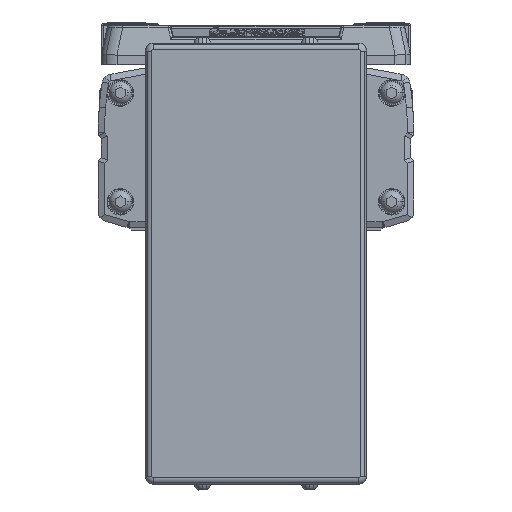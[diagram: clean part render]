
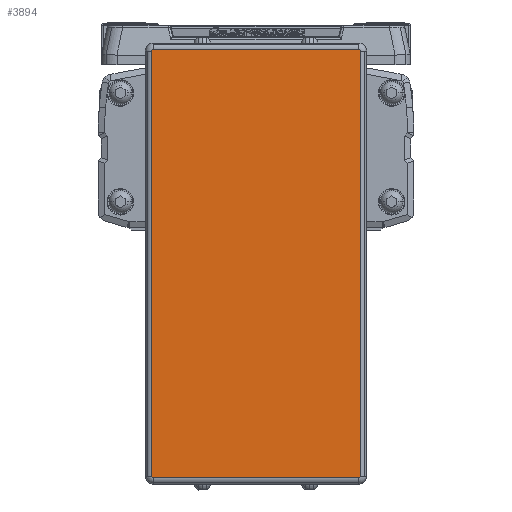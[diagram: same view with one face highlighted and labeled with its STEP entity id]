
A CAD part, left-side view. The second image highlights one B-rep face of the part: STEP entity #3894.
In plain terms, the highlighted planar face has unit normal (-1, 0, 0).
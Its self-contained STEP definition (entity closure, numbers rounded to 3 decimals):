
#3894=ADVANCED_FACE('',(#8872),#8873,.F.);
#8872=FACE_OUTER_BOUND('',#15362,.T.);
#8873=PLANE('',#15363);
#15362=EDGE_LOOP('',(#26341,#26342,#26343,#26344,#26345,#26346,#26347,#26348));
#15363=AXIS2_PLACEMENT_3D('',#26349,#26350,#26351);
#26341=ORIENTED_EDGE('',*,*,#40487,.T.);
#26342=ORIENTED_EDGE('',*,*,#41334,.T.);
#26343=ORIENTED_EDGE('',*,*,#40332,.T.);
#26344=ORIENTED_EDGE('',*,*,#41341,.T.);
#26345=ORIENTED_EDGE('',*,*,#41342,.T.);
#26346=ORIENTED_EDGE('',*,*,#38200,.T.);
#26347=ORIENTED_EDGE('',*,*,#39663,.T.);
#26348=ORIENTED_EDGE('',*,*,#40032,.T.);
#26349=CARTESIAN_POINT('',(-616.0,0.,-41.6));
#26350=DIRECTION('',(1.0,0.,0.));
#26351=DIRECTION('',(0.,0.,1.0));
#38200=EDGE_CURVE('',#45841,#45839,#45842,.T.);
#39663=EDGE_CURVE('',#45839,#48321,#48323,.T.);
#40032=EDGE_CURVE('',#48321,#48905,#48907,.T.);
#40332=EDGE_CURVE('',#49386,#49384,#49387,.T.);
#40487=EDGE_CURVE('',#48905,#49619,#49621,.T.);
#41334=EDGE_CURVE('',#49619,#49386,#50917,.T.);
#41341=EDGE_CURVE('',#49384,#50925,#50926,.T.);
#41342=EDGE_CURVE('',#50925,#45841,#50927,.T.);
#45839=VERTEX_POINT('',#56643);
#45841=VERTEX_POINT('',#56645);
#45842=CIRCLE('',#56646,0.5);
#48321=VERTEX_POINT('',#59897);
#48323=LINE('',#59899,#59900);
#48905=VERTEX_POINT('',#60707);
#48907=CIRCLE('',#60709,0.5);
#49384=VERTEX_POINT('',#61328);
#49386=VERTEX_POINT('',#61330);
#49387=LINE('',#61331,#61332);
#49619=VERTEX_POINT('',#61639);
#49621=LINE('',#61641,#61642);
#50917=CIRCLE('',#63490,0.5);
#50925=VERTEX_POINT('',#63499);
#50926=CIRCLE('',#63500,0.5);
#50927=LINE('',#63501,#63502);
#56643=CARTESIAN_POINT('',(-616.0,32.55,-109.5));
#56645=CARTESIAN_POINT('',(-616.0,33.05,-109.));
#56646=AXIS2_PLACEMENT_3D('',#70093,#70094,#70095);
#59897=CARTESIAN_POINT('',(-616.0,-32.55,-109.5));
#59899=CARTESIAN_POINT('',(-616.0,0.,-109.5));
#59900=VECTOR('',#72192,10.0);
#60707=CARTESIAN_POINT('',(-616.0,-33.05,-109.));
#60709=AXIS2_PLACEMENT_3D('',#72693,#72694,#72695);
#61328=CARTESIAN_POINT('',(-616.,32.55,26.3));
#61330=CARTESIAN_POINT('',(-616.,-32.55,26.3));
#61331=CARTESIAN_POINT('',(-616.,0.,26.3));
#61332=VECTOR('',#73138,10.0);
#61639=CARTESIAN_POINT('',(-616.,-33.05,25.8));
#61641=CARTESIAN_POINT('',(-616.,-33.05,-41.6));
#61642=VECTOR('',#73345,10.0);
#63490=AXIS2_PLACEMENT_3D('',#74391,#74392,#74393);
#63499=CARTESIAN_POINT('',(-616.,33.05,25.8));
#63500=AXIS2_PLACEMENT_3D('',#74404,#74405,#74406);
#63501=CARTESIAN_POINT('',(-616.0,33.05,-41.6));
#63502=VECTOR('',#74407,10.0);
#70093=CARTESIAN_POINT('',(-616.0,32.55,-109.));
#70094=DIRECTION('',(-1.0,0.,0.));
#70095=DIRECTION('',(0.,0.707,-0.707));
#72192=DIRECTION('',(0.,-1.0,0.));
#72693=CARTESIAN_POINT('',(-616.0,-32.55,-109.));
#72694=DIRECTION('',(-1.0,0.,0.));
#72695=DIRECTION('',(0.,-0.707,-0.707));
#73138=DIRECTION('',(0.,1.0,0.));
#73345=DIRECTION('',(0.,0.,1.0));
#74391=CARTESIAN_POINT('',(-616.,-32.55,25.8));
#74392=DIRECTION('',(-1.0,0.,0.));
#74393=DIRECTION('',(0.,-0.707,0.707));
#74404=CARTESIAN_POINT('',(-616.,32.55,25.8));
#74405=DIRECTION('',(-1.0,0.,0.));
#74406=DIRECTION('',(0.,0.707,0.707));
#74407=DIRECTION('',(0.,0.,-1.0));
